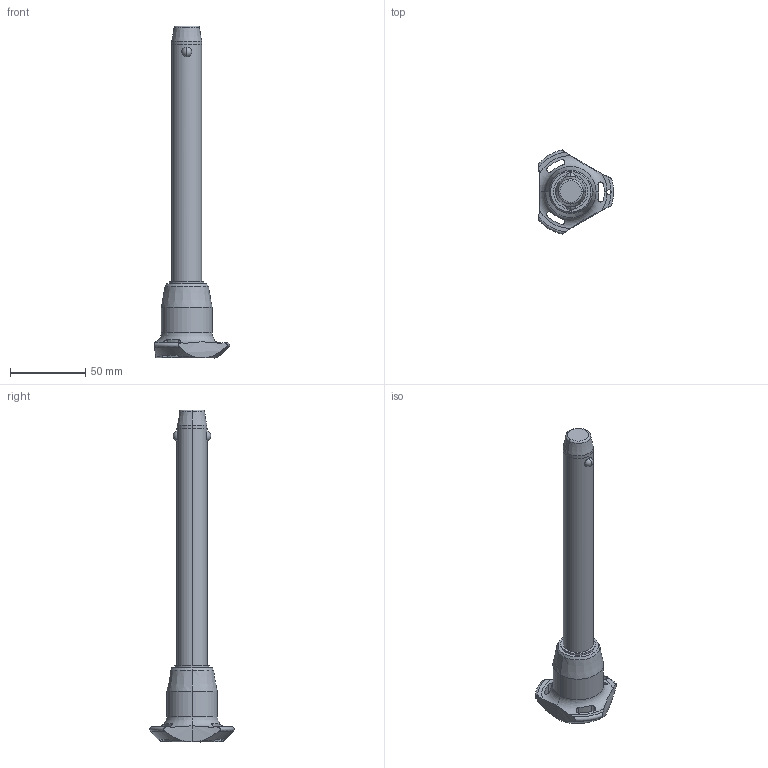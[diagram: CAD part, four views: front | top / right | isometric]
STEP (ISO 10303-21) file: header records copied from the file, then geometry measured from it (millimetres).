
FILE_DESCRIPTION (( 'STEP AP203' ), '1' );
FILE_NAME ('QR1736.M20-150-T.step', '2025-11-13T12:14:15', ( '' ), ( '' ), 'SwSTEP 2.0', 'SolidWorks 2019', '' );
FILE_SCHEMA (( 'CONFIG_CONTROL_DESIGN' ));
Length unit declared in the file: millimetre
Products named in the file (1): QR1736.M20-150-T
Bounding box: 50.04 x 56.02 x 221.2 mm (x, y, z)
Volume: 100899.5 mm3; surface area: 20392.5 mm2
Topology: 1 solids, 1 shells, 68 faces, 182 edges, 115 vertices
Faces by surface type: cylinder 32, cone 14, torus 11, sphere 6, plane 5
Entity records: 2938 total; most frequent: CARTESIAN_POINT 1192, ORIENTED_EDGE 364, DIRECTION 345, EDGE_CURVE 182, AXIS2_PLACEMENT_3D 154, VERTEX_POINT 115, CIRCLE 85, EDGE_LOOP 75
